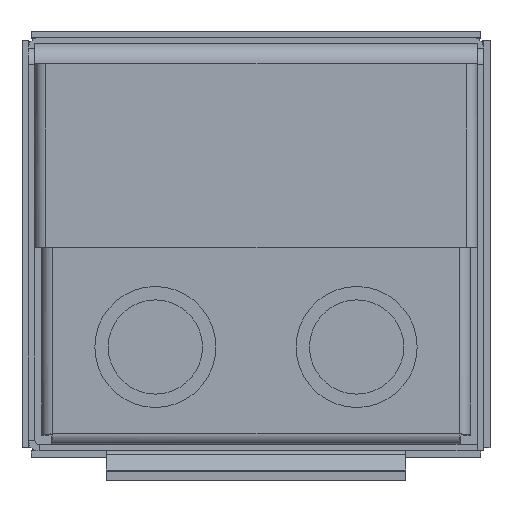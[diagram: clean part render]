
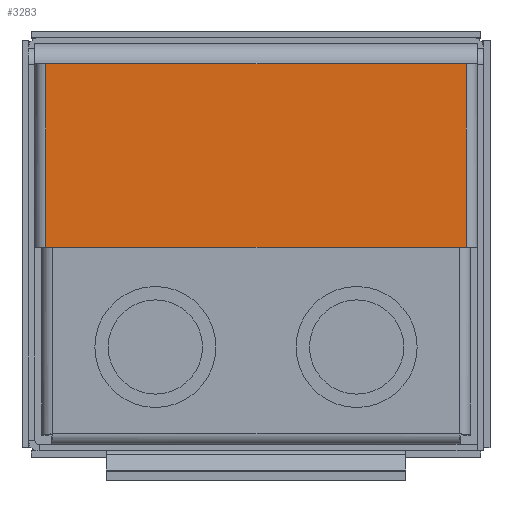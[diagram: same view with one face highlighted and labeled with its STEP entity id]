
A CAD part, front view. The second image highlights one B-rep face of the part: STEP entity #3283.
In plain terms, the highlighted planar face has unit normal (0, -1, 0).
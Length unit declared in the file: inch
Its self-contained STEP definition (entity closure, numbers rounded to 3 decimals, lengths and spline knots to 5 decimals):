
#53 = DIRECTION ( 'NONE',  ( -1., 0., 0. ) ) ;
#72 = PLANE ( 'NONE',  #3359 ) ;
#355 = VERTEX_POINT ( 'NONE', #5774 ) ;
#629 = ORIENTED_EDGE ( 'NONE', *, *, #5038, .T. ) ;
#1032 = CARTESIAN_POINT ( 'NONE',  ( -2.065, -0.06, -0.95 ) ) ;
#1256 = CARTESIAN_POINT ( 'NONE',  ( 1.965, -0.06, -0.95 ) ) ;
#1396 = CARTESIAN_POINT ( 'NONE',  ( 1.965, -0.06, -0.95 ) ) ;
#1475 = EDGE_CURVE ( 'NONE', #3250, #5049, #5147, .T. ) ;
#1875 = DIRECTION ( 'NONE',  ( 0., 0., -1. ) ) ;
#1949 = LINE ( 'NONE', #4650, #6375 ) ;
#2213 = VECTOR ( 'NONE', #4001, 39.37008 ) ;
#2719 = ORIENTED_EDGE ( 'NONE', *, *, #5877, .T. ) ;
#2730 = EDGE_CURVE ( 'NONE', #3250, #6409, #6347, .T. ) ;
#2883 = CARTESIAN_POINT ( 'NONE',  ( 2.065, -0.06, 0.765 ) ) ;
#3067 = VECTOR ( 'NONE', #3079, 39.37008 ) ;
#3079 = DIRECTION ( 'NONE',  ( 0., 0., 1. ) ) ;
#3250 = VERTEX_POINT ( 'NONE', #1256 ) ;
#3256 = DIRECTION ( 'NONE',  ( 0., 1., 0. ) ) ;
#3283 = ADVANCED_FACE ( 'NONE', ( #5919 ), #72, .F. ) ;
#3359 = AXIS2_PLACEMENT_3D ( 'NONE', #5469, #3256, #5433 ) ;
#3607 = EDGE_LOOP ( 'NONE', ( #2719, #5732, #3929, #629 ) ) ;
#3625 = CARTESIAN_POINT ( 'NONE',  ( -1.965, -0.06, -0.95 ) ) ;
#3929 = ORIENTED_EDGE ( 'NONE', *, *, #1475, .T. ) ;
#4001 = DIRECTION ( 'NONE',  ( -1., 0., 0. ) ) ;
#4650 = CARTESIAN_POINT ( 'NONE',  ( -1.965, -0.06, 0.765 ) ) ;
#5038 = EDGE_CURVE ( 'NONE', #5049, #355, #6529, .T. ) ;
#5049 = VERTEX_POINT ( 'NONE', #5053 ) ;
#5053 = CARTESIAN_POINT ( 'NONE',  ( 1.965, -0.06, 0.765 ) ) ;
#5147 = LINE ( 'NONE', #1396, #3067 ) ;
#5433 = DIRECTION ( 'NONE',  ( 0., 0., 1. ) ) ;
#5469 = CARTESIAN_POINT ( 'NONE',  ( 0., -0.06, 0. ) ) ;
#5598 = VECTOR ( 'NONE', #53, 39.37008 ) ;
#5732 = ORIENTED_EDGE ( 'NONE', *, *, #2730, .F. ) ;
#5774 = CARTESIAN_POINT ( 'NONE',  ( -1.965, -0.06, 0.765 ) ) ;
#5877 = EDGE_CURVE ( 'NONE', #355, #6409, #1949, .T. ) ;
#5919 = FACE_OUTER_BOUND ( 'NONE', #3607, .T. ) ;
#6347 = LINE ( 'NONE', #1032, #5598 ) ;
#6375 = VECTOR ( 'NONE', #1875, 39.37008 ) ;
#6409 = VERTEX_POINT ( 'NONE', #3625 ) ;
#6529 = LINE ( 'NONE', #2883, #2213 ) ;
